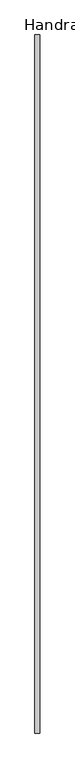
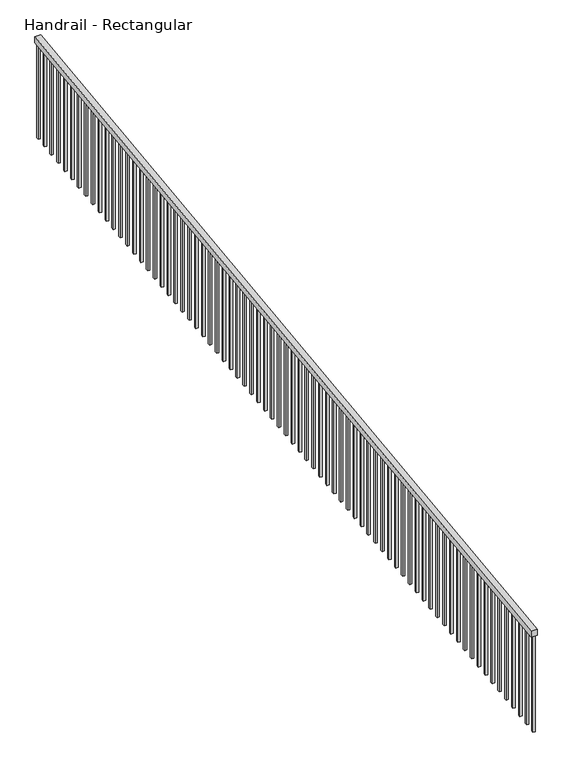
"""IFC4 building model written with IfcOpenShell, lengths in millimetres: railing geometry, Handrail - Rectangular."""

from ifc_helpers import new_model, si_unit, frame, origin, place, context, project, spatial, polyline, outline, extrude, source, transform, mapped, element, save


def handrail_rectangular_4fce719c(model_context):
    return source(origin(), model_context, "Body", "SweptSolid", [
        extrude(outline(polyline([(-10044.7467479, -51.1953367), (-10044.7467479, 0.0), (-2729.5467479, 914.4), (-2729.5467479, 863.2046633), (-10044.7467479, -51.1953367)])), frame((-3166.5256242, 0.0, 0.0), z_axis=(1.0, 0.0, 0.0), x_axis=(0.0, 1.0, 0.0)), (0.0, 0.0, 1.0), 50.8),
        extrude(outline(polyline([(-2840.6717479, 849.3140383), (-2821.6217479, 851.6952883), (-2821.6217479, -11.509375), (-2840.6717479, -13.890625), (-2840.6717479, 849.3140383)])), frame((-3150.6506242, 0.0, 0.0), z_axis=(1.0, 0.0, 0.0), x_axis=(0.0, 1.0, 0.0)), (0.0, 0.0, 1.0), 19.05),
        extrude(outline(polyline([(-2942.2717479, 836.6140383), (-2923.2217479, 838.9952883), (-2923.2217479, -24.209375), (-2942.2717479, -26.590625), (-2942.2717479, 836.6140383)])), frame((-3150.6506242, 0.0, 0.0), z_axis=(1.0, 0.0, 0.0), x_axis=(0.0, 1.0, 0.0)), (0.0, 0.0, 1.0), 19.05),
        extrude(outline(polyline([(-3043.8717479, 823.9140383), (-3024.8217479, 826.2952883), (-3024.8217479, -36.909375), (-3043.8717479, -39.290625), (-3043.8717479, 823.9140383)])), frame((-3150.6506242, 0.0, 0.0), z_axis=(1.0, 0.0, 0.0), x_axis=(0.0, 1.0, 0.0)), (0.0, 0.0, 1.0), 19.05),
        extrude(outline(polyline([(-3145.4717479, 811.2140383), (-3126.4217479, 813.5952883), (-3126.4217479, -49.609375), (-3145.4717479, -51.990625), (-3145.4717479, 811.2140383)])), frame((-3150.6506242, 0.0, 0.0), z_axis=(1.0, 0.0, 0.0), x_axis=(0.0, 1.0, 0.0)), (0.0, 0.0, 1.0), 19.05),
        extrude(outline(polyline([(-3247.0717479, 798.5140383), (-3228.0217479, 800.8952883), (-3228.0217479, -62.309375), (-3247.0717479, -64.690625), (-3247.0717479, 798.5140383)])), frame((-3150.6506242, 0.0, 0.0), z_axis=(1.0, 0.0, 0.0), x_axis=(0.0, 1.0, 0.0)), (0.0, 0.0, 1.0), 19.05),
        extrude(outline(polyline([(-3348.6717479, 785.8140383), (-3329.6217479, 788.1952883), (-3329.6217479, -75.009375), (-3348.6717479, -77.390625), (-3348.6717479, 785.8140383)])), frame((-3150.6506242, 0.0, 0.0), z_axis=(1.0, 0.0, 0.0), x_axis=(0.0, 1.0, 0.0)), (0.0, 0.0, 1.0), 19.05),
        extrude(outline(polyline([(-3450.2717479, 773.1140383), (-3431.2217479, 775.4952883), (-3431.2217479, -87.709375), (-3450.2717479, -90.090625), (-3450.2717479, 773.1140383)])), frame((-3150.6506242, 0.0, 0.0), z_axis=(1.0, 0.0, 0.0), x_axis=(0.0, 1.0, 0.0)), (0.0, 0.0, 1.0), 19.05),
        extrude(outline(polyline([(-3551.8717479, 760.4140383), (-3532.8217479, 762.7952883), (-3532.8217479, -100.409375), (-3551.8717479, -102.790625), (-3551.8717479, 760.4140383)])), frame((-3150.6506242, 0.0, 0.0), z_axis=(1.0, 0.0, 0.0), x_axis=(0.0, 1.0, 0.0)), (0.0, 0.0, 1.0), 19.05),
        extrude(outline(polyline([(-3653.4717479, 747.7140383), (-3634.4217479, 750.0952883), (-3634.4217479, -113.109375), (-3653.4717479, -115.490625), (-3653.4717479, 747.7140383)])), frame((-3150.6506242, 0.0, 0.0), z_axis=(1.0, 0.0, 0.0), x_axis=(0.0, 1.0, 0.0)), (0.0, 0.0, 1.0), 19.05),
        extrude(outline(polyline([(-3755.0717479, 735.0140383), (-3736.0217479, 737.3952883), (-3736.0217479, -125.809375), (-3755.0717479, -128.190625), (-3755.0717479, 735.0140383)])), frame((-3150.6506242, 0.0, 0.0), z_axis=(1.0, 0.0, 0.0), x_axis=(0.0, 1.0, 0.0)), (0.0, 0.0, 1.0), 19.05),
        extrude(outline(polyline([(-3856.6717479, 722.3140383), (-3837.6217479, 724.6952883), (-3837.6217479, -138.509375), (-3856.6717479, -140.890625), (-3856.6717479, 722.3140383)])), frame((-3150.6506242, 0.0, 0.0), z_axis=(1.0, 0.0, 0.0), x_axis=(0.0, 1.0, 0.0)), (0.0, 0.0, 1.0), 19.05),
        extrude(outline(polyline([(-3958.2717479, 709.6140383), (-3939.2217479, 711.9952883), (-3939.2217479, -151.209375), (-3958.2717479, -153.590625), (-3958.2717479, 709.6140383)])), frame((-3150.6506242, 0.0, 0.0), z_axis=(1.0, 0.0, 0.0), x_axis=(0.0, 1.0, 0.0)), (0.0, 0.0, 1.0), 19.05),
        extrude(outline(polyline([(-4059.8717479, 696.9140383), (-4040.8217479, 699.2952883), (-4040.8217479, -163.909375), (-4059.8717479, -166.290625), (-4059.8717479, 696.9140383)])), frame((-3150.6506242, 0.0, 0.0), z_axis=(1.0, 0.0, 0.0), x_axis=(0.0, 1.0, 0.0)), (0.0, 0.0, 1.0), 19.05),
        extrude(outline(polyline([(-4161.4717479, 684.2140383), (-4142.4217479, 686.5952883), (-4142.4217479, -176.609375), (-4161.4717479, -178.990625), (-4161.4717479, 684.2140383)])), frame((-3150.6506242, 0.0, 0.0), z_axis=(1.0, 0.0, 0.0), x_axis=(0.0, 1.0, 0.0)), (0.0, 0.0, 1.0), 19.05),
        extrude(outline(polyline([(-4263.0717479, 671.5140383), (-4244.0217479, 673.8952883), (-4244.0217479, -189.309375), (-4263.0717479, -191.690625), (-4263.0717479, 671.5140383)])), frame((-3150.6506242, 0.0, 0.0), z_axis=(1.0, 0.0, 0.0), x_axis=(0.0, 1.0, 0.0)), (0.0, 0.0, 1.0), 19.05),
        extrude(outline(polyline([(-4364.6717479, 658.8140383), (-4345.6217479, 661.1952883), (-4345.6217479, -202.009375), (-4364.6717479, -204.390625), (-4364.6717479, 658.8140383)])), frame((-3150.6506242, 0.0, 0.0), z_axis=(1.0, 0.0, 0.0), x_axis=(0.0, 1.0, 0.0)), (0.0, 0.0, 1.0), 19.05),
        extrude(outline(polyline([(-4466.2717479, 646.1140383), (-4447.2217479, 648.4952883), (-4447.2217479, -214.709375), (-4466.2717479, -217.090625), (-4466.2717479, 646.1140383)])), frame((-3150.6506242, 0.0, 0.0), z_axis=(1.0, 0.0, 0.0), x_axis=(0.0, 1.0, 0.0)), (0.0, 0.0, 1.0), 19.05),
        extrude(outline(polyline([(-4567.8717479, 633.4140383), (-4548.8217479, 635.7952883), (-4548.8217479, -227.409375), (-4567.8717479, -229.790625), (-4567.8717479, 633.4140383)])), frame((-3150.6506242, 0.0, 0.0), z_axis=(1.0, 0.0, 0.0), x_axis=(0.0, 1.0, 0.0)), (0.0, 0.0, 1.0), 19.05),
        extrude(outline(polyline([(-4669.4717479, 620.7140383), (-4650.4217479, 623.0952883), (-4650.4217479, -240.109375), (-4669.4717479, -242.490625), (-4669.4717479, 620.7140383)])), frame((-3150.6506242, 0.0, 0.0), z_axis=(1.0, 0.0, 0.0), x_axis=(0.0, 1.0, 0.0)), (0.0, 0.0, 1.0), 19.05),
        extrude(outline(polyline([(-4771.0717479, 608.0140383), (-4752.0217479, 610.3952883), (-4752.0217479, -252.809375), (-4771.0717479, -255.190625), (-4771.0717479, 608.0140383)])), frame((-3150.6506242, 0.0, 0.0), z_axis=(1.0, 0.0, 0.0), x_axis=(0.0, 1.0, 0.0)), (0.0, 0.0, 1.0), 19.05),
        extrude(outline(polyline([(-4872.6717479, 595.3140383), (-4853.6217479, 597.6952883), (-4853.6217479, -265.509375), (-4872.6717479, -267.890625), (-4872.6717479, 595.3140383)])), frame((-3150.6506242, 0.0, 0.0), z_axis=(1.0, 0.0, 0.0), x_axis=(0.0, 1.0, 0.0)), (0.0, 0.0, 1.0), 19.05),
        extrude(outline(polyline([(-4974.2717479, 582.6140383), (-4955.2217479, 584.9952883), (-4955.2217479, -278.209375), (-4974.2717479, -280.590625), (-4974.2717479, 582.6140383)])), frame((-3150.6506242, 0.0, 0.0), z_axis=(1.0, 0.0, 0.0), x_axis=(0.0, 1.0, 0.0)), (0.0, 0.0, 1.0), 19.05),
        extrude(outline(polyline([(-5075.8717479, 569.9140383), (-5056.8217479, 572.2952883), (-5056.8217479, -290.909375), (-5075.8717479, -293.290625), (-5075.8717479, 569.9140383)])), frame((-3150.6506242, 0.0, 0.0), z_axis=(1.0, 0.0, 0.0), x_axis=(0.0, 1.0, 0.0)), (0.0, 0.0, 1.0), 19.05),
        extrude(outline(polyline([(-5177.4717479, 557.2140383), (-5158.4217479, 559.5952883), (-5158.4217479, -303.609375), (-5177.4717479, -305.990625), (-5177.4717479, 557.2140383)])), frame((-3150.6506242, 0.0, 0.0), z_axis=(1.0, 0.0, 0.0), x_axis=(0.0, 1.0, 0.0)), (0.0, 0.0, 1.0), 19.05),
        extrude(outline(polyline([(-5279.0717479, 544.5140383), (-5260.0217479, 546.8952883), (-5260.0217479, -316.309375), (-5279.0717479, -318.690625), (-5279.0717479, 544.5140383)])), frame((-3150.6506242, 0.0, 0.0), z_axis=(1.0, 0.0, 0.0), x_axis=(0.0, 1.0, 0.0)), (0.0, 0.0, 1.0), 19.05),
        extrude(outline(polyline([(-5380.6717479, 531.8140383), (-5361.6217479, 534.1952883), (-5361.6217479, -329.009375), (-5380.6717479, -331.390625), (-5380.6717479, 531.8140383)])), frame((-3150.6506242, 0.0, 0.0), z_axis=(1.0, 0.0, 0.0), x_axis=(0.0, 1.0, 0.0)), (0.0, 0.0, 1.0), 19.05),
        extrude(outline(polyline([(-5482.2717479, 519.1140383), (-5463.2217479, 521.4952883), (-5463.2217479, -341.709375), (-5482.2717479, -344.090625), (-5482.2717479, 519.1140383)])), frame((-3150.6506242, 0.0, 0.0), z_axis=(1.0, 0.0, 0.0), x_axis=(0.0, 1.0, 0.0)), (0.0, 0.0, 1.0), 19.05),
        extrude(outline(polyline([(-5583.8717479, 506.4140383), (-5564.8217479, 508.7952883), (-5564.8217479, -354.409375), (-5583.8717479, -356.790625), (-5583.8717479, 506.4140383)])), frame((-3150.6506242, 0.0, 0.0), z_axis=(1.0, 0.0, 0.0), x_axis=(0.0, 1.0, 0.0)), (0.0, 0.0, 1.0), 19.05),
        extrude(outline(polyline([(-5685.4717479, 493.7140383), (-5666.4217479, 496.0952883), (-5666.4217479, -367.109375), (-5685.4717479, -369.490625), (-5685.4717479, 493.7140383)])), frame((-3150.6506242, 0.0, 0.0), z_axis=(1.0, 0.0, 0.0), x_axis=(0.0, 1.0, 0.0)), (0.0, 0.0, 1.0), 19.05),
        extrude(outline(polyline([(-5787.0717479, 481.0140383), (-5768.0217479, 483.3952883), (-5768.0217479, -379.809375), (-5787.0717479, -382.190625), (-5787.0717479, 481.0140383)])), frame((-3150.6506242, 0.0, 0.0), z_axis=(1.0, 0.0, 0.0), x_axis=(0.0, 1.0, 0.0)), (0.0, 0.0, 1.0), 19.05),
        extrude(outline(polyline([(-5888.6717479, 468.3140383), (-5869.6217479, 470.6952883), (-5869.6217479, -392.509375), (-5888.6717479, -394.890625), (-5888.6717479, 468.3140383)])), frame((-3150.6506242, 0.0, 0.0), z_axis=(1.0, 0.0, 0.0), x_axis=(0.0, 1.0, 0.0)), (0.0, 0.0, 1.0), 19.05),
        extrude(outline(polyline([(-5990.2717479, 455.6140383), (-5971.2217479, 457.9952883), (-5971.2217479, -405.209375), (-5990.2717479, -407.590625), (-5990.2717479, 455.6140383)])), frame((-3150.6506242, 0.0, 0.0), z_axis=(1.0, 0.0, 0.0), x_axis=(0.0, 1.0, 0.0)), (0.0, 0.0, 1.0), 19.05),
        extrude(outline(polyline([(-6091.8717479, 442.9140383), (-6072.8217479, 445.2952883), (-6072.8217479, -417.909375), (-6091.8717479, -420.290625), (-6091.8717479, 442.9140383)])), frame((-3150.6506242, 0.0, 0.0), z_axis=(1.0, 0.0, 0.0), x_axis=(0.0, 1.0, 0.0)), (0.0, 0.0, 1.0), 19.05),
        extrude(outline(polyline([(-6193.4717479, 430.2140383), (-6174.4217479, 432.5952883), (-6174.4217479, -430.609375), (-6193.4717479, -432.990625), (-6193.4717479, 430.2140383)])), frame((-3150.6506242, 0.0, 0.0), z_axis=(1.0, 0.0, 0.0), x_axis=(0.0, 1.0, 0.0)), (0.0, 0.0, 1.0), 19.05),
        extrude(outline(polyline([(-6295.0717479, 417.5140383), (-6276.0217479, 419.8952883), (-6276.0217479, -443.309375), (-6295.0717479, -445.690625), (-6295.0717479, 417.5140383)])), frame((-3150.6506242, 0.0, 0.0), z_axis=(1.0, 0.0, 0.0), x_axis=(0.0, 1.0, 0.0)), (0.0, 0.0, 1.0), 19.05),
        extrude(outline(polyline([(-6396.6717479, 404.8140383), (-6377.6217479, 407.1952883), (-6377.6217479, -456.009375), (-6396.6717479, -458.390625), (-6396.6717479, 404.8140383)])), frame((-3150.6506242, 0.0, 0.0), z_axis=(1.0, 0.0, 0.0), x_axis=(0.0, 1.0, 0.0)), (0.0, 0.0, 1.0), 19.05),
        extrude(outline(polyline([(-6498.2717479, 392.1140383), (-6479.2217479, 394.4952883), (-6479.2217479, -468.709375), (-6498.2717479, -471.090625), (-6498.2717479, 392.1140383)])), frame((-3150.6506242, 0.0, 0.0), z_axis=(1.0, 0.0, 0.0), x_axis=(0.0, 1.0, 0.0)), (0.0, 0.0, 1.0), 19.05),
        extrude(outline(polyline([(-6599.8717479, 379.4140383), (-6580.8217479, 381.7952883), (-6580.8217479, -481.409375), (-6599.8717479, -483.790625), (-6599.8717479, 379.4140383)])), frame((-3150.6506242, 0.0, 0.0), z_axis=(1.0, 0.0, 0.0), x_axis=(0.0, 1.0, 0.0)), (0.0, 0.0, 1.0), 19.05),
        extrude(outline(polyline([(-6701.4717479, 366.7140383), (-6682.4217479, 369.0952883), (-6682.4217479, -494.109375), (-6701.4717479, -496.490625), (-6701.4717479, 366.7140383)])), frame((-3150.6506242, 0.0, 0.0), z_axis=(1.0, 0.0, 0.0), x_axis=(0.0, 1.0, 0.0)), (0.0, 0.0, 1.0), 19.05),
        extrude(outline(polyline([(-6803.0717479, 354.0140383), (-6784.0217479, 356.3952883), (-6784.0217479, -506.809375), (-6803.0717479, -509.190625), (-6803.0717479, 354.0140383)])), frame((-3150.6506242, 0.0, 0.0), z_axis=(1.0, 0.0, 0.0), x_axis=(0.0, 1.0, 0.0)), (0.0, 0.0, 1.0), 19.05),
        extrude(outline(polyline([(-6904.6717479, 341.3140383), (-6885.6217479, 343.6952883), (-6885.6217479, -519.509375), (-6904.6717479, -521.890625), (-6904.6717479, 341.3140383)])), frame((-3150.6506242, 0.0, 0.0), z_axis=(1.0, 0.0, 0.0), x_axis=(0.0, 1.0, 0.0)), (0.0, 0.0, 1.0), 19.05),
        extrude(outline(polyline([(-7006.2717479, 328.6140383), (-6987.2217479, 330.9952883), (-6987.2217479, -532.209375), (-7006.2717479, -534.590625), (-7006.2717479, 328.6140383)])), frame((-3150.6506242, 0.0, 0.0), z_axis=(1.0, 0.0, 0.0), x_axis=(0.0, 1.0, 0.0)), (0.0, 0.0, 1.0), 19.05),
        extrude(outline(polyline([(-7107.8717479, 315.9140383), (-7088.8217479, 318.2952883), (-7088.8217479, -544.909375), (-7107.8717479, -547.290625), (-7107.8717479, 315.9140383)])), frame((-3150.6506242, 0.0, 0.0), z_axis=(1.0, 0.0, 0.0), x_axis=(0.0, 1.0, 0.0)), (0.0, 0.0, 1.0), 19.05),
        extrude(outline(polyline([(-7209.4717479, 303.2140383), (-7190.4217479, 305.5952883), (-7190.4217479, -557.609375), (-7209.4717479, -559.990625), (-7209.4717479, 303.2140383)])), frame((-3150.6506242, 0.0, 0.0), z_axis=(1.0, 0.0, 0.0), x_axis=(0.0, 1.0, 0.0)), (0.0, 0.0, 1.0), 19.05),
        extrude(outline(polyline([(-7311.0717479, 290.5140383), (-7292.0217479, 292.8952883), (-7292.0217479, -570.309375), (-7311.0717479, -572.690625), (-7311.0717479, 290.5140383)])), frame((-3150.6506242, 0.0, 0.0), z_axis=(1.0, 0.0, 0.0), x_axis=(0.0, 1.0, 0.0)), (0.0, 0.0, 1.0), 19.05),
        extrude(outline(polyline([(-7412.6717479, 277.8140383), (-7393.6217479, 280.1952883), (-7393.6217479, -583.009375), (-7412.6717479, -585.390625), (-7412.6717479, 277.8140383)])), frame((-3150.6506242, 0.0, 0.0), z_axis=(1.0, 0.0, 0.0), x_axis=(0.0, 1.0, 0.0)), (0.0, 0.0, 1.0), 19.05),
        extrude(outline(polyline([(-7514.2717479, 265.1140383), (-7495.2217479, 267.4952883), (-7495.2217479, -595.709375), (-7514.2717479, -598.090625), (-7514.2717479, 265.1140383)])), frame((-3150.6506242, 0.0, 0.0), z_axis=(1.0, 0.0, 0.0), x_axis=(0.0, 1.0, 0.0)), (0.0, 0.0, 1.0), 19.05),
        extrude(outline(polyline([(-7615.8717479, 252.4140383), (-7596.8217479, 254.7952883), (-7596.8217479, -608.409375), (-7615.8717479, -610.790625), (-7615.8717479, 252.4140383)])), frame((-3150.6506242, 0.0, 0.0), z_axis=(1.0, 0.0, 0.0), x_axis=(0.0, 1.0, 0.0)), (0.0, 0.0, 1.0), 19.05),
        extrude(outline(polyline([(-7717.4717479, 239.7140383), (-7698.4217479, 242.0952883), (-7698.4217479, -621.109375), (-7717.4717479, -623.490625), (-7717.4717479, 239.7140383)])), frame((-3150.6506242, 0.0, 0.0), z_axis=(1.0, 0.0, 0.0), x_axis=(0.0, 1.0, 0.0)), (0.0, 0.0, 1.0), 19.05),
        extrude(outline(polyline([(-7819.0717479, 227.0140383), (-7800.0217479, 229.3952883), (-7800.0217479, -633.809375), (-7819.0717479, -636.190625), (-7819.0717479, 227.0140383)])), frame((-3150.6506242, 0.0, 0.0), z_axis=(1.0, 0.0, 0.0), x_axis=(0.0, 1.0, 0.0)), (0.0, 0.0, 1.0), 19.05),
        extrude(outline(polyline([(-7920.6717479, 214.3140383), (-7901.6217479, 216.6952883), (-7901.6217479, -646.509375), (-7920.6717479, -648.890625), (-7920.6717479, 214.3140383)])), frame((-3150.6506242, 0.0, 0.0), z_axis=(1.0, 0.0, 0.0), x_axis=(0.0, 1.0, 0.0)), (0.0, 0.0, 1.0), 19.05),
        extrude(outline(polyline([(-8022.2717479, 201.6140383), (-8003.2217479, 203.9952883), (-8003.2217479, -659.209375), (-8022.2717479, -661.590625), (-8022.2717479, 201.6140383)])), frame((-3150.6506242, 0.0, 0.0), z_axis=(1.0, 0.0, 0.0), x_axis=(0.0, 1.0, 0.0)), (0.0, 0.0, 1.0), 19.05),
        extrude(outline(polyline([(-8123.8717479, 188.9140383), (-8104.8217479, 191.2952883), (-8104.8217479, -671.909375), (-8123.8717479, -674.290625), (-8123.8717479, 188.9140383)])), frame((-3150.6506242, 0.0, 0.0), z_axis=(1.0, 0.0, 0.0), x_axis=(0.0, 1.0, 0.0)), (0.0, 0.0, 1.0), 19.05),
        extrude(outline(polyline([(-8225.4717479, 176.2140383), (-8206.4217479, 178.5952883), (-8206.4217479, -684.609375), (-8225.4717479, -686.990625), (-8225.4717479, 176.2140383)])), frame((-3150.6506242, 0.0, 0.0), z_axis=(1.0, 0.0, 0.0), x_axis=(0.0, 1.0, 0.0)), (0.0, 0.0, 1.0), 19.05),
        extrude(outline(polyline([(-8327.0717479, 163.5140383), (-8308.0217479, 165.8952883), (-8308.0217479, -697.309375), (-8327.0717479, -699.690625), (-8327.0717479, 163.5140383)])), frame((-3150.6506242, 0.0, 0.0), z_axis=(1.0, 0.0, 0.0), x_axis=(0.0, 1.0, 0.0)), (0.0, 0.0, 1.0), 19.05),
        extrude(outline(polyline([(-8428.6717479, 150.8140383), (-8409.6217479, 153.1952883), (-8409.6217479, -710.009375), (-8428.6717479, -712.390625), (-8428.6717479, 150.8140383)])), frame((-3150.6506242, 0.0, 0.0), z_axis=(1.0, 0.0, 0.0), x_axis=(0.0, 1.0, 0.0)), (0.0, 0.0, 1.0), 19.05),
        extrude(outline(polyline([(-8530.2717479, 138.1140383), (-8511.2217479, 140.4952883), (-8511.2217479, -722.709375), (-8530.2717479, -725.090625), (-8530.2717479, 138.1140383)])), frame((-3150.6506242, 0.0, 0.0), z_axis=(1.0, 0.0, 0.0), x_axis=(0.0, 1.0, 0.0)), (0.0, 0.0, 1.0), 19.05),
        extrude(outline(polyline([(-8631.8717479, 125.4140383), (-8612.8217479, 127.7952883), (-8612.8217479, -735.409375), (-8631.8717479, -737.790625), (-8631.8717479, 125.4140383)])), frame((-3150.6506242, 0.0, 0.0), z_axis=(1.0, 0.0, 0.0), x_axis=(0.0, 1.0, 0.0)), (0.0, 0.0, 1.0), 19.05),
        extrude(outline(polyline([(-8733.4717479, 112.7140383), (-8714.4217479, 115.0952883), (-8714.4217479, -748.109375), (-8733.4717479, -750.490625), (-8733.4717479, 112.7140383)])), frame((-3150.6506242, 0.0, 0.0), z_axis=(1.0, 0.0, 0.0), x_axis=(0.0, 1.0, 0.0)), (0.0, 0.0, 1.0), 19.05),
        extrude(outline(polyline([(-8835.0717479, 100.0140383), (-8816.0217479, 102.3952883), (-8816.0217479, -760.809375), (-8835.0717479, -763.190625), (-8835.0717479, 100.0140383)])), frame((-3150.6506242, 0.0, 0.0), z_axis=(1.0, 0.0, 0.0), x_axis=(0.0, 1.0, 0.0)), (0.0, 0.0, 1.0), 19.05),
        extrude(outline(polyline([(-8936.6717479, 87.3140383), (-8917.6217479, 89.6952883), (-8917.6217479, -773.509375), (-8936.6717479, -775.890625), (-8936.6717479, 87.3140383)])), frame((-3150.6506242, 0.0, 0.0), z_axis=(1.0, 0.0, 0.0), x_axis=(0.0, 1.0, 0.0)), (0.0, 0.0, 1.0), 19.05),
        extrude(outline(polyline([(-9038.2717479, 74.6140383), (-9019.2217479, 76.9952883), (-9019.2217479, -786.209375), (-9038.2717479, -788.590625), (-9038.2717479, 74.6140383)])), frame((-3150.6506242, 0.0, 0.0), z_axis=(1.0, 0.0, 0.0), x_axis=(0.0, 1.0, 0.0)), (0.0, 0.0, 1.0), 19.05),
        extrude(outline(polyline([(-9139.8717479, 61.9140383), (-9120.8217479, 64.2952883), (-9120.8217479, -798.909375), (-9139.8717479, -801.290625), (-9139.8717479, 61.9140383)])), frame((-3150.6506242, 0.0, 0.0), z_axis=(1.0, 0.0, 0.0), x_axis=(0.0, 1.0, 0.0)), (0.0, 0.0, 1.0), 19.05),
        extrude(outline(polyline([(-9241.4717479, 49.2140383), (-9222.4217479, 51.5952883), (-9222.4217479, -811.609375), (-9241.4717479, -813.990625), (-9241.4717479, 49.2140383)])), frame((-3150.6506242, 0.0, 0.0), z_axis=(1.0, 0.0, 0.0), x_axis=(0.0, 1.0, 0.0)), (0.0, 0.0, 1.0), 19.05),
        extrude(outline(polyline([(-9343.0717479, 36.5140383), (-9324.0217479, 38.8952883), (-9324.0217479, -824.309375), (-9343.0717479, -826.690625), (-9343.0717479, 36.5140383)])), frame((-3150.6506242, 0.0, 0.0), z_axis=(1.0, 0.0, 0.0), x_axis=(0.0, 1.0, 0.0)), (0.0, 0.0, 1.0), 19.05),
        extrude(outline(polyline([(-9444.6717479, 23.8140383), (-9425.6217479, 26.1952883), (-9425.6217479, -837.009375), (-9444.6717479, -839.390625), (-9444.6717479, 23.8140383)])), frame((-3150.6506242, 0.0, 0.0), z_axis=(1.0, 0.0, 0.0), x_axis=(0.0, 1.0, 0.0)), (0.0, 0.0, 1.0), 19.05),
        extrude(outline(polyline([(-9546.2717479, 11.1140383), (-9527.2217479, 13.4952883), (-9527.2217479, -849.709375), (-9546.2717479, -852.090625), (-9546.2717479, 11.1140383)])), frame((-3150.6506242, 0.0, 0.0), z_axis=(1.0, 0.0, 0.0), x_axis=(0.0, 1.0, 0.0)), (0.0, 0.0, 1.0), 19.05),
        extrude(outline(polyline([(-9647.8717479, -1.5859617), (-9628.8217479, 0.7952883), (-9628.8217479, -862.409375), (-9647.8717479, -864.790625), (-9647.8717479, -1.5859617)])), frame((-3150.6506242, 0.0, 0.0), z_axis=(1.0, 0.0, 0.0), x_axis=(0.0, 1.0, 0.0)), (0.0, 0.0, 1.0), 19.05),
        extrude(outline(polyline([(-9749.4717479, -14.2859617), (-9730.4217479, -11.9047117), (-9730.4217479, -875.109375), (-9749.4717479, -877.490625), (-9749.4717479, -14.2859617)])), frame((-3150.6506242, 0.0, 0.0), z_axis=(1.0, 0.0, 0.0), x_axis=(0.0, 1.0, 0.0)), (0.0, 0.0, 1.0), 19.05),
        extrude(outline(polyline([(-9851.0717479, -26.9859617), (-9832.0217479, -24.6047117), (-9832.0217479, -887.809375), (-9851.0717479, -890.190625), (-9851.0717479, -26.9859617)])), frame((-3150.6506242, 0.0, 0.0), z_axis=(1.0, 0.0, 0.0), x_axis=(0.0, 1.0, 0.0)), (0.0, 0.0, 1.0), 19.05),
        extrude(outline(polyline([(-9952.6717479, -39.6859617), (-9933.6217479, -37.3047117), (-9933.6217479, -900.509375), (-9952.6717479, -902.890625), (-9952.6717479, -39.6859617)])), frame((-3150.6506242, 0.0, 0.0), z_axis=(1.0, 0.0, 0.0), x_axis=(0.0, 1.0, 0.0)), (0.0, 0.0, 1.0), 19.05),
        extrude(outline(polyline([(-2748.5967479, 860.8234133), (-2729.5467479, 863.2046633), (-2729.5467479, 0.0), (-2748.5967479, -2.38125), (-2748.5967479, 860.8234133)])), frame((-3150.6506242, 0.0, 0.0), z_axis=(1.0, 0.0, 0.0), x_axis=(0.0, 1.0, 0.0)), (0.0, 0.0, 1.0), 19.05),
        extrude(outline(polyline([(-10044.7467479, -51.1953367), (-10025.6967479, -48.8140867), (-10025.6967479, -912.01875), (-10044.7467479, -914.4), (-10044.7467479, -51.1953367)])), frame((-3150.6506242, 0.0, 0.0), z_axis=(1.0, 0.0, 0.0), x_axis=(0.0, 1.0, 0.0)), (0.0, 0.0, 1.0), 19.05),
    ])


if __name__ == "__main__":
    model = new_model("IFC4")
    model_context = context("Model", 3, world=origin())
    ifc_project = project(units=[si_unit("LENGTHUNIT", "METRE", prefix="MILLI")], contexts=[model_context])
    site = spatial("IfcSite", under=ifc_project)
    building = spatial("IfcBuilding", under=site)
    placement = place(None, origin())
    handrail_rectangular_shape = handrail_rectangular_4fce719c(model_context)
    element("IfcRailing", 1, ObjectType="Handrail - Rectangular", at=placement, inside=building, context=model_context, shape_type="MappedRepresentation", body=[
        mapped(handrail_rectangular_shape, transform((0.0, 0.0, 0.0), x_axis=(1.0, 0.0, 0.0), y_axis=(0.0, 1.0, 0.0), z_axis=(0.0, 0.0, 1.0))),
    ])
    save(model, "model.ifc")
